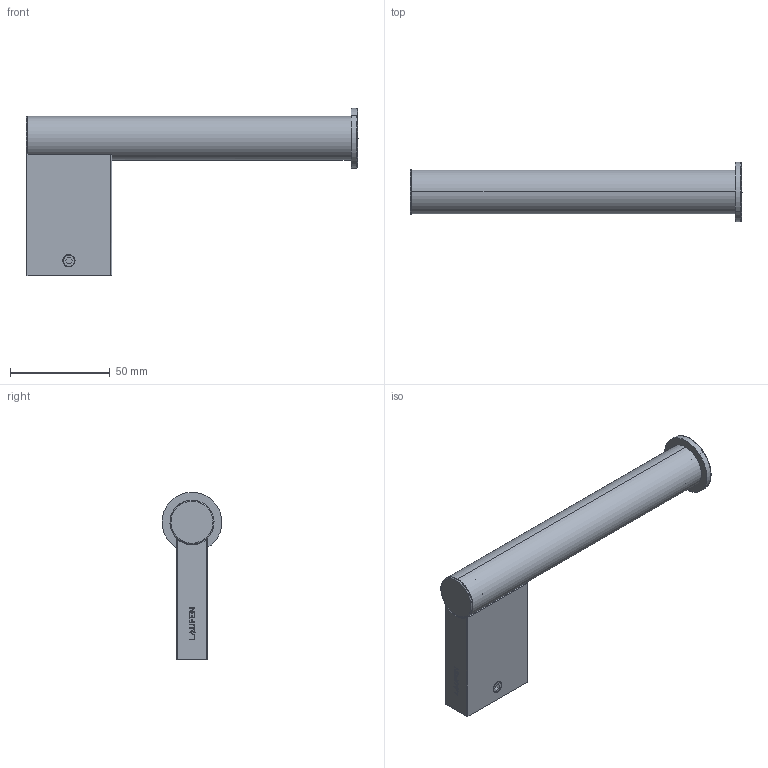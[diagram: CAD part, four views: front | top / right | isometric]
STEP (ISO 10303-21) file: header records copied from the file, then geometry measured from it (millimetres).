
FILE_DESCRIPTION (( 'STEP AP203' ), '1' );
FILE_NAME ('3-84152-0021D3S.STEP', '2023-10-18T09:06:03', ( '' ), ( '' ), 'SwSTEP 2.0', 'SolidWorks 2016', '' );
FILE_SCHEMA (( 'CONFIG_CONTROL_DESIGN' ));
Length unit declared in the file: millimetre
Products named in the file (1): 3-84152-0021D3S
Bounding box: 166.5 x 30 x 84 mm (x, y, z)
Volume: 33899.8 mm3; surface area: 47068.6 mm2
Topology: 10 solids, 10 shells, 973 faces, 2478 edges, 1521 vertices
Faces by surface type: plane 349, cylinder 327, bspline 149, sphere 82, torus 40, cone 26
Entity records: 34572 total; most frequent: CARTESIAN_POINT 12684, ORIENTED_EDGE 4844, DIRECTION 4117, EDGE_CURVE 2422, VERTEX_POINT 1509, AXIS2_PLACEMENT_3D 1402, VECTOR 1313, LINE 1313
